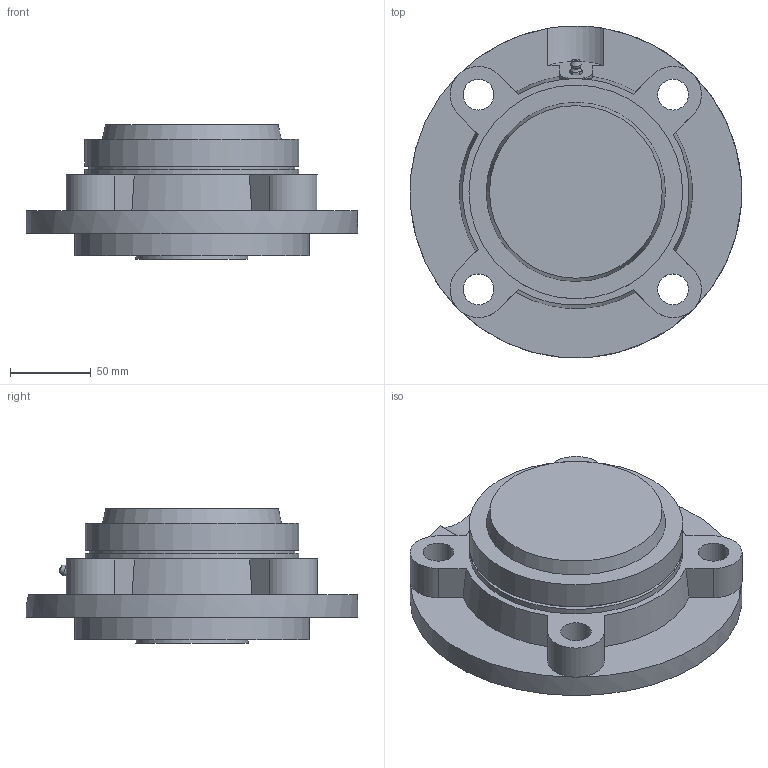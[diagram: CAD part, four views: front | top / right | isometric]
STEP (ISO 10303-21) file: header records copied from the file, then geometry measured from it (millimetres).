
FILE_DESCRIPTION((''),'2;1');
FILE_NAME('\\Ts-tgl068\j-cad-d-base\00.3DCADデータ作成フォルダ\02.フランジ形\UKFC200C(E)\UKFC213E+H.stp','2014-05-22T07:52:58',('btec_1106_2'),(''),'Autodesk Inventor 2012','Autodesk Inventor 2012','');
FILE_SCHEMA(('AUTOMOTIVE_DESIGN { 1 0 10303 214 1 1 1 1 }'));
Length unit declared in the file: millimetre
Products named in the file (5): UKFC200E+H; FC213C; 213CPE; UK213; GU1
Assembly tree (4 placements, depth 2):
  UKFC200E+H
    FC213C
    213CPE
    UK213
    GU1
Bounding box: 204.76 x 204.94 x 83 mm (x, y, z)
Volume: 813229.2 mm3; surface area: 211746.8 mm2
Topology: 4 solids, 4 shells, 226 faces, 552 edges, 351 vertices
Faces by surface type: plane 98, cylinder 61, cone 59, sphere 4, bspline 2, torus 2
Full cylindrical faces by diameter (mm): 5.359 x1, 6.35 x1, 19 x4, 60 x1, 65 x1, 82.1 x2, 125 x1, 127 x1, 130 x2, 132 x3, 145 x1, 205 x1
Entity records: 6572 total; most frequent: CARTESIAN_POINT 1424, DIRECTION 1063, ORIENTED_EDGE 1022, EDGE_CURVE 511, AXIS2_PLACEMENT_3D 440, VERTEX_POINT 338, EDGE_LOOP 289, FACE_OUTER_BOUND 226
